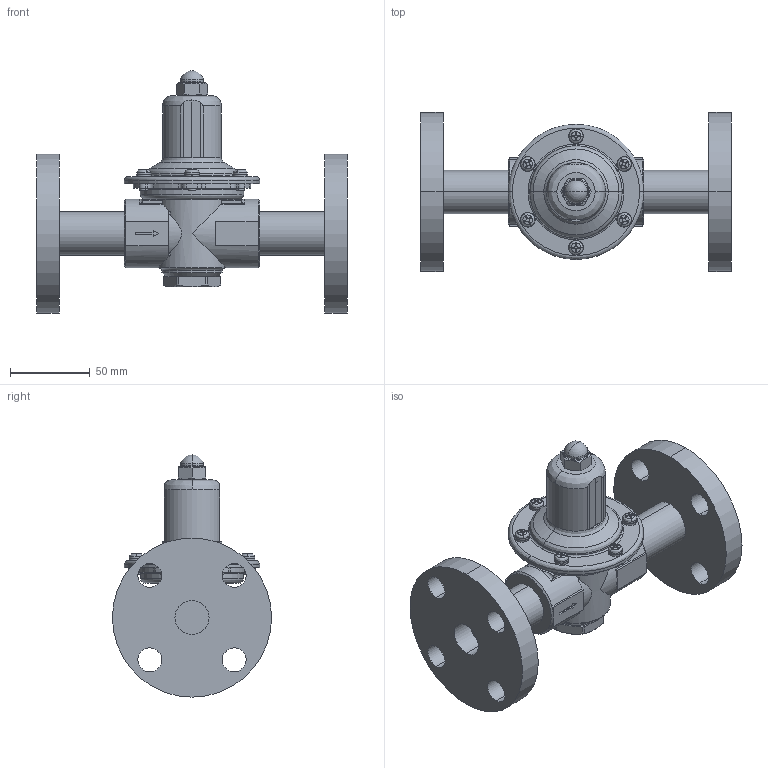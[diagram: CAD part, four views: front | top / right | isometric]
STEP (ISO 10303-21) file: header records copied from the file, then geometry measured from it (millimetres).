
FILE_DESCRIPTION( (''), '2;1');
FILE_NAME ('PC1276.4780.GD-43-10 (20A FF)_29886.stp','2026-01-15T14:27:32',(''),(''),'spGate 20.6.3 (****-****-****-****)','','');
FILE_SCHEMA (('AUTOMOTIVE_DESIGN'));
Length unit declared in the file: millimetre
Products named in the file (8): Assembly; ばねかばー; 袋ナット; 下部キャップ; なべこねじ(Ｍ5-10); スプリング座金; ダイヤフラム; GD-41 20A
Assembly tree (17 placements, depth 2):
  Assembly
    ばねかばー
    袋ナット
    下部キャップ
    なべこねじ(Ｍ5-10)  x6
    スプリング座金  x6
    ダイヤフラム
    GD-41 20A
Bounding box: 195 x 100 x 152.25 mm (x, y, z)
Volume: 434987.9 mm3; surface area: 119010 mm2
Topology: 17 solids, 17 shells, 631 faces, 1594 edges, 1017 vertices
Faces by surface type: plane 259, cylinder 236, bspline 120, sphere 16
Entity records: 26047 total; most frequent: CARTESIAN_POINT 5596, ORIENTED_EDGE 2380, DIRECTION 2180, COLOUR_RGB 1663, PRESENTATION_STYLE_ASSIGNMENT 1663, STYLED_ITEM 1663, EDGE_CURVE 1190, DRAUGHTING_PRE_DEFINED_CURVE_FONT 1190
